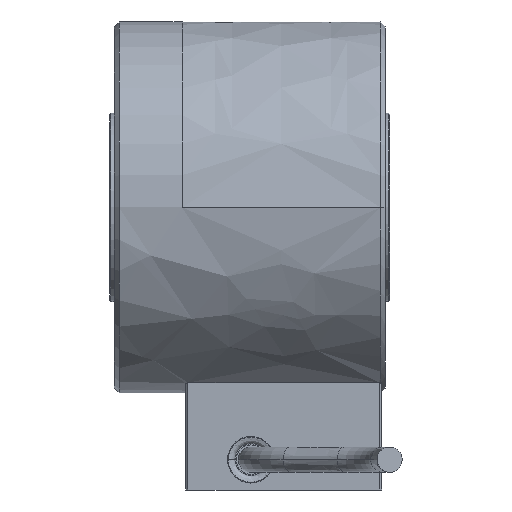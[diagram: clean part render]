
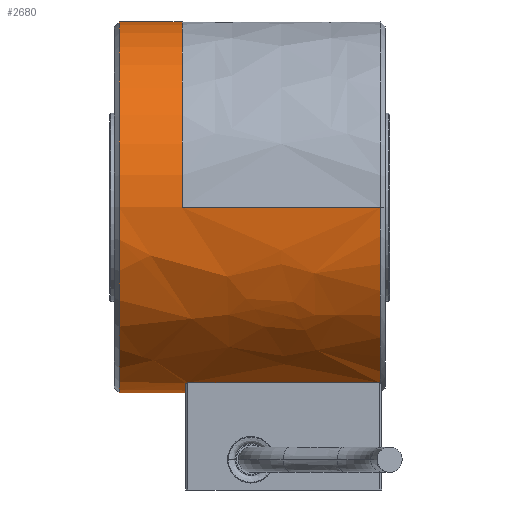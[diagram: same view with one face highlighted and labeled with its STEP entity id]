
A CAD part, left-side view. The second image highlights one B-rep face of the part: STEP entity #2680.
In plain terms, the highlighted free-form (B-spline) face has degree [10, 1] with [11, 2] control points.
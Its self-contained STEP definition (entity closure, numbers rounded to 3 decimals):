
#186=CARTESIAN_POINT('',(0.,-2.,0.));
#187=DIRECTION('',(0.,1.,0.));
#188=DIRECTION('',(0.,0.,-1.));
#189=AXIS2_PLACEMENT_3D('',#186,#187,#188);
#205=CARTESIAN_POINT('',(0.,-15.5,0.));
#206=DIRECTION('',(0.,-1.,0.));
#207=DIRECTION('',(0.,0.,-1.));
#208=AXIS2_PLACEMENT_3D('',#205,#206,#207);
#215=CARTESIAN_POINT('',(12.75,-58.,-37.65));
#216=CARTESIAN_POINT('',(12.833,-57.917,-37.621));
#217=CARTESIAN_POINT('',(12.917,-57.833,-37.593));
#218=CARTESIAN_POINT('',(13.,-57.75,-37.564));
#220=CARTESIAN_POINT('',(0.,-58.,0.));
#221=DIRECTION('',(0.,-1.,0.));
#222=DIRECTION('',(0.321,0.,-0.947));
#223=AXIS2_PLACEMENT_3D('',#220,#221,#222);
#225=DIRECTION('',(0.,-1.,0.));
#226=VECTOR('',#225,42.5);
#227=CARTESIAN_POINT('',(39.75,-15.5,0.));
#228=LINE('',#227,#226);
#229=DIRECTION('',(0.,1.,0.));
#230=VECTOR('',#229,13.5);
#231=CARTESIAN_POINT('',(0.,-15.5,-39.75));
#232=LINE('',#231,#230);
#233=DIRECTION('',(0.,1.,0.));
#234=VECTOR('',#233,13.5);
#235=CARTESIAN_POINT('',(0.,-15.5,39.75));
#236=LINE('',#235,#234);
#237=CARTESIAN_POINT('',(0.,-15.5,0.));
#238=DIRECTION('',(0.,-1.,0.));
#239=DIRECTION('',(0.,0.,1.));
#240=AXIS2_PLACEMENT_3D('',#237,#238,#239);
#242=DIRECTION('',(0.,-1.,0.));
#243=VECTOR('',#242,42.5);
#244=CARTESIAN_POINT('',(-39.75,-15.5,0.));
#245=LINE('',#244,#243);
#246=CARTESIAN_POINT('',(0.,-58.,0.));
#247=DIRECTION('',(0.,-1.,0.));
#248=DIRECTION('',(-1.,0.,0.));
#249=AXIS2_PLACEMENT_3D('',#246,#247,#248);
#251=CARTESIAN_POINT('',(-13.,-57.75,-37.564));
#252=CARTESIAN_POINT('',(-12.917,-57.833,
-37.593));
#253=CARTESIAN_POINT('',(-12.833,-57.917,
-37.621));
#254=CARTESIAN_POINT('',(-12.75,-58.,-37.65));
#256=DIRECTION('',(0.,-1.,0.));
#257=VECTOR('',#256,41.);
#258=CARTESIAN_POINT('',(-13.,-16.75,-37.564));
#259=LINE('',#258,#257);
#260=CARTESIAN_POINT('',(-13.,-16.75,-37.564));
#261=CARTESIAN_POINT('',(-12.834,-16.584,
-37.622));
#262=CARTESIAN_POINT('',(-12.667,-16.417,
-37.678));
#263=CARTESIAN_POINT('',(-12.5,-16.25,-37.733));
#265=CARTESIAN_POINT('',(0.,-16.25,0.));
#266=DIRECTION('',(0.,-1.,0.));
#267=DIRECTION('',(-0.314,0.,-0.949));
#268=AXIS2_PLACEMENT_3D('',#265,#266,#267);
#270=CARTESIAN_POINT('',(12.5,-16.25,-37.733));
#271=CARTESIAN_POINT('',(12.667,-16.417,-37.678));
#272=CARTESIAN_POINT('',(12.834,-16.584,-37.622));
#273=CARTESIAN_POINT('',(13.,-16.75,-37.564));
#275=DIRECTION('',(0.,-1.,0.));
#276=VECTOR('',#275,41.);
#277=CARTESIAN_POINT('',(13.,-16.75,-37.564));
#278=LINE('',#277,#276);
#1858=CARTESIAN_POINT('',(0.,-2.,-39.75));
#1859=CARTESIAN_POINT('',(0.,-2.,39.75));
#1860=VERTEX_POINT('',#1858);
#1861=VERTEX_POINT('',#1859);
#2038=CARTESIAN_POINT('',(39.75,-58.,0.));
#2039=CARTESIAN_POINT('',(-39.75,-58.,0.));
#2040=VERTEX_POINT('',#2038);
#2041=VERTEX_POINT('',#2039);
#2042=CARTESIAN_POINT('',(0.,-15.5,39.75));
#2043=CARTESIAN_POINT('',(-39.75,-15.5,0.));
#2044=VERTEX_POINT('',#2042);
#2045=VERTEX_POINT('',#2043);
#2046=CARTESIAN_POINT('',(0.,-15.5,-39.75));
#2047=CARTESIAN_POINT('',(39.75,-15.5,0.));
#2048=VERTEX_POINT('',#2046);
#2049=VERTEX_POINT('',#2047);
#2222=VERTEX_POINT('',#215);
#2223=VERTEX_POINT('',#218);
#2224=VERTEX_POINT('',#251);
#2225=VERTEX_POINT('',#254);
#2226=CARTESIAN_POINT('',(-13.,-16.75,-37.564));
#2227=VERTEX_POINT('',#2226);
#2228=VERTEX_POINT('',#263);
#2229=CARTESIAN_POINT('',(12.5,-16.25,-37.733));
#2230=VERTEX_POINT('',#2229);
#2231=VERTEX_POINT('',#273);
#2630=CARTESIAN_POINT('',(3.741,-0.88,39.574));
#2631=CARTESIAN_POINT('',(3.741,-59.12,39.574));
#2632=CARTESIAN_POINT('',(-15.654,-0.88,41.407));
#2633=CARTESIAN_POINT('',(-15.654,-59.12,41.407));
#2634=CARTESIAN_POINT('',(-36.047,-0.88,32.679));
#2635=CARTESIAN_POINT('',(-36.047,-59.12,32.679));
#2636=CARTESIAN_POINT('',(-50.962,-0.88,12.771));
#2637=CARTESIAN_POINT('',(-50.962,-59.12,12.771));
#2638=CARTESIAN_POINT('',(-53.541,-0.88,-14.347));
#2639=CARTESIAN_POINT('',(-53.541,-59.12,-14.347));
#2640=CARTESIAN_POINT('',(-40.038,-0.88,-40.057));
#2641=CARTESIAN_POINT('',(-40.038,-59.12,-40.057));
#2642=CARTESIAN_POINT('',(-14.361,-0.88,-53.527));
#2643=CARTESIAN_POINT('',(-14.361,-59.12,-53.527));
#2644=CARTESIAN_POINT('',(12.776,-0.88,-50.967));
#2645=CARTESIAN_POINT('',(12.776,-59.12,-50.967));
#2646=CARTESIAN_POINT('',(32.679,-0.88,-36.047));
#2647=CARTESIAN_POINT('',(32.679,-59.12,-36.047));
#2648=CARTESIAN_POINT('',(41.407,-0.88,-15.654));
#2649=CARTESIAN_POINT('',(41.407,-59.12,-15.654));
#2650=CARTESIAN_POINT('',(39.574,-0.88,3.741));
#2651=CARTESIAN_POINT('',(39.574,-59.12,3.741));
#2652=B_SPLINE_SURFACE_WITH_KNOTS('',10,1,((#2630,#2631),(#2632,#2633),(#2634,
#2635),(#2636,#2637),(#2638,#2639),(#2640,#2641),(#2642,#2643),(#2644,#2645),(
#2646,#2647),(#2648,#2649),(#2650,#2651)),.UNSPECIFIED.,.F.,.F.,.F.,(11,11),(2,
2),(-6.377,-1.477),(3.88,62.12),.UNSPECIFIED.);
#2654=ORIENTED_EDGE('',*,*,#2653,.F.);
#2656=ORIENTED_EDGE('',*,*,#2655,.T.);
#2657=ORIENTED_EDGE('',*,*,#2614,.F.);
#2658=ORIENTED_EDGE('',*,*,#2612,.F.);
#2659=ORIENTED_EDGE('',*,*,#2625,.T.);
#2660=ORIENTED_EDGE('',*,*,#2555,.T.);
#2661=ORIENTED_EDGE('',*,*,#2622,.F.);
#2662=ORIENTED_EDGE('',*,*,#2620,.T.);
#2663=ORIENTED_EDGE('',*,*,#2618,.T.);
#2665=ORIENTED_EDGE('',*,*,#2664,.T.);
#2667=ORIENTED_EDGE('',*,*,#2666,.F.);
#2669=ORIENTED_EDGE('',*,*,#2668,.F.);
#2671=ORIENTED_EDGE('',*,*,#2670,.T.);
#2673=ORIENTED_EDGE('',*,*,#2672,.T.);
#2675=ORIENTED_EDGE('',*,*,#2674,.T.);
#2677=ORIENTED_EDGE('',*,*,#2676,.T.);
#2678=EDGE_LOOP('',(#2654,#2656,#2657,#2658,#2659,#2660,#2661,#2662,#2663,#2665,
#2667,#2669,#2671,#2673,#2675,#2677));
#2679=FACE_OUTER_BOUND('',#2678,.F.);
#2680=ADVANCED_FACE('',(#2679),#2652,.T.);
#190=CIRCLE('',#189,39.75);
#209=CIRCLE('',#208,39.75);
#219=B_SPLINE_CURVE_WITH_KNOTS('',3,(#215,#216,#217,#218),.UNSPECIFIED.,.F.,.F.,
(4,4),(0.,1.),.UNSPECIFIED.);
#224=CIRCLE('',#223,39.75);
#241=CIRCLE('',#240,39.75);
#250=CIRCLE('',#249,39.75);
#255=B_SPLINE_CURVE_WITH_KNOTS('',3,(#251,#252,#253,#254),.UNSPECIFIED.,.F.,.F.,
(4,4),(0.,1.),.UNSPECIFIED.);
#264=B_SPLINE_CURVE_WITH_KNOTS('',3,(#260,#261,#262,#263),.UNSPECIFIED.,.F.,.F.,
(4,4),(0.,1.),.UNSPECIFIED.);
#269=CIRCLE('',#268,39.75);
#274=B_SPLINE_CURVE_WITH_KNOTS('',3,(#270,#271,#272,#273),.UNSPECIFIED.,.F.,.F.,
(4,4),(0.,1.),.UNSPECIFIED.);
#2555=EDGE_CURVE('',#1860,#1861,#190,.T.);
#2612=EDGE_CURVE('',#2048,#2049,#209,.T.);
#2614=EDGE_CURVE('',#2049,#2040,#228,.T.);
#2618=EDGE_CURVE('',#2045,#2041,#245,.T.);
#2620=EDGE_CURVE('',#2044,#2045,#241,.T.);
#2622=EDGE_CURVE('',#2044,#1861,#236,.T.);
#2625=EDGE_CURVE('',#2048,#1860,#232,.T.);
#2653=EDGE_CURVE('',#2222,#2223,#219,.T.);
#2655=EDGE_CURVE('',#2222,#2040,#224,.T.);
#2664=EDGE_CURVE('',#2041,#2225,#250,.T.);
#2666=EDGE_CURVE('',#2224,#2225,#255,.T.);
#2668=EDGE_CURVE('',#2227,#2224,#259,.T.);
#2670=EDGE_CURVE('',#2227,#2228,#264,.T.);
#2672=EDGE_CURVE('',#2228,#2230,#269,.T.);
#2674=EDGE_CURVE('',#2230,#2231,#274,.T.);
#2676=EDGE_CURVE('',#2231,#2223,#278,.T.);
